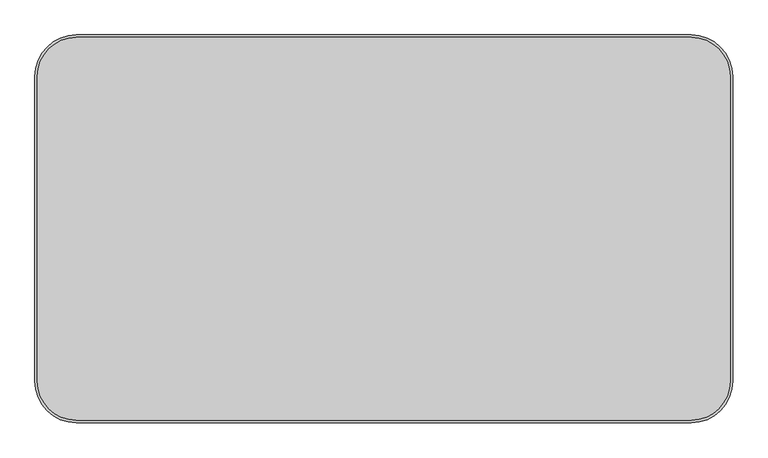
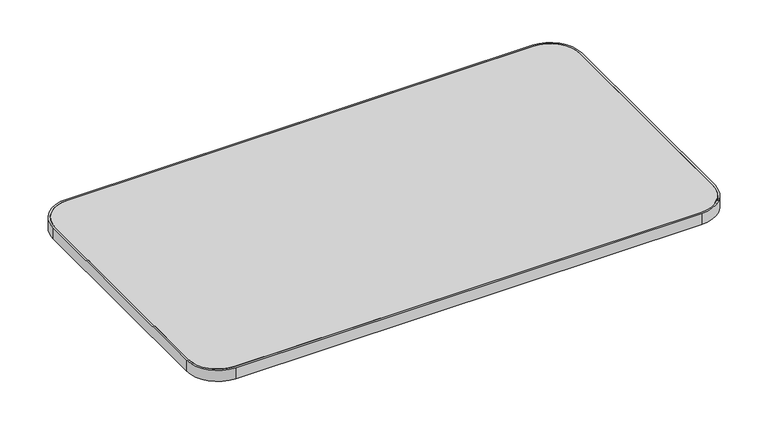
"""IFC4 building model written with IfcOpenShell, lengths in millimetres: furniture geometry, Steelcase - Answer Solution - Universal Table - Straight - 3mm Edge : 30D x 54W."""

from ifc_helpers import new_model, si_unit, point, frame, frame_2d, origin, place, context, project, spatial, polyline, circle_curve, trimmed, segment, composite_curve, outline, extrude, source, transform, mapped, element, save


def furniture_1f974b37(model_context):
    return source(origin(), model_context, "Body", "SweptSolid", [
        extrude(outline(composite_curve([segment(polyline([(5.08, -680.72), (5.08, -81.28)]), True, "CONTINUOUS"), segment(trimmed(circle_curve(frame_2d((81.28, -81.28)), 76.2), [point((5.08, -81.28))], [point((81.28, -5.08))], False, "CARTESIAN"), True, "CONTINUOUS"), segment(polyline([(81.28, -5.08), (1290.32, -5.08)]), True, "CONTINUOUS"), segment(trimmed(circle_curve(frame_2d((1290.32, -81.28)), 76.2), [point((1290.32, -5.08))], [point((1366.52, -81.28))], False, "CARTESIAN"), True, "CONTINUOUS"), segment(polyline([(1366.52, -81.28), (1366.52, -680.72)]), True, "CONTINUOUS"), segment(trimmed(circle_curve(frame_2d((1290.32, -680.72)), 76.2), [point((1366.52, -680.72))], [point((1290.32, -756.92))], False, "CARTESIAN"), True, "CONTINUOUS"), segment(polyline([(1290.32, -756.92), (81.28, -756.92)]), True, "CONTINUOUS"), segment(trimmed(circle_curve(frame_2d((81.28, -680.72)), 76.2), [point((81.28, -756.92))], [point((5.08, -680.72))], False, "CARTESIAN"), True, "CONTINUOUS")], self_intersect=False)), frame((0.0, 0.0, 668.274), z_axis=(0.0, 0.0, 1.0), x_axis=(1.0, 0.0, 0.0)), (0.0, 0.0, 1.0), 30.0990349),
        extrude(outline(composite_curve([segment(polyline([(81.28, 0.0), (1290.32, 0.0)]), True, "CONTINUOUS"), segment(trimmed(circle_curve(frame_2d((1290.32, -81.28)), 81.28), [point((1290.32, 0.0))], [point((1371.6, -81.28))], False, "CARTESIAN"), True, "CONTINUOUS"), segment(polyline([(1371.6, -81.28), (1371.6, -680.72)]), True, "CONTINUOUS"), segment(trimmed(circle_curve(frame_2d((1290.32, -680.72)), 81.28), [point((1371.6, -680.72))], [point((1290.32, -762.0))], False, "CARTESIAN"), True, "CONTINUOUS"), segment(polyline([(1290.32, -762.0), (81.28, -762.0)]), True, "CONTINUOUS"), segment(trimmed(circle_curve(frame_2d((81.28, -680.72)), 81.28), [point((81.28, -762.0))], [point((0.0, -680.72))], False, "CARTESIAN"), True, "CONTINUOUS"), segment(polyline([(0.0, -680.72), (0.0, -81.28)]), True, "CONTINUOUS"), segment(trimmed(circle_curve(frame_2d((81.28, -81.28)), 81.28), [point((0.0, -81.28))], [point((81.28, 0.0))], False, "CARTESIAN"), True, "CONTINUOUS")], self_intersect=False), holes=[composite_curve([segment(trimmed(circle_curve(frame_2d((81.28, -81.28)), 76.2), [point((81.28, -5.08))], [point((5.08, -81.28))], True, "CARTESIAN"), True, "CONTINUOUS"), segment(polyline([(5.08, -81.28), (5.08, -680.72)]), True, "CONTINUOUS"), segment(trimmed(circle_curve(frame_2d((81.28, -680.72)), 76.2), [point((5.08, -680.72))], [point((81.28, -756.92))], True, "CARTESIAN"), True, "CONTINUOUS"), segment(polyline([(81.28, -756.92), (1290.32, -756.92)]), True, "CONTINUOUS"), segment(trimmed(circle_curve(frame_2d((1290.32, -680.72)), 76.2), [point((1290.32, -756.92))], [point((1366.52, -680.72))], True, "CARTESIAN"), True, "CONTINUOUS"), segment(polyline([(1366.52, -680.72), (1366.52, -81.28)]), True, "CONTINUOUS"), segment(trimmed(circle_curve(frame_2d((1290.32, -81.28)), 76.2), [point((1366.52, -81.28))], [point((1290.32, -5.08))], True, "CARTESIAN"), True, "CONTINUOUS"), segment(polyline([(1290.32, -5.08), (81.28, -5.08)]), True, "CONTINUOUS")], self_intersect=False)]), frame((0.0, 0.0, 668.274), z_axis=(0.0, 0.0, 1.0), x_axis=(1.0, 0.0, 0.0)), (0.0, 0.0, 1.0), 30.0990349),
    ])


if __name__ == "__main__":
    model = new_model("IFC4")
    model_context = context("Model", 3, world=origin())
    ifc_project = project(units=[si_unit("LENGTHUNIT", "METRE", prefix="MILLI")], contexts=[model_context])
    site = spatial("IfcSite", under=ifc_project)
    building = spatial("IfcBuilding", under=site)
    placement = place(None, origin())
    furniture_shape = furniture_1f974b37(model_context)
    element("IfcFurniture", 1, ObjectType="Steelcase - Answer Solution - Universal Table - Straight - 3mm Edge : 30D x 54W", at=placement, inside=building, context=model_context, shape_type="MappedRepresentation", body=[
        mapped(furniture_shape, transform((0.0, 0.0, 0.0), x_axis=(1.0, 0.0, 0.0), y_axis=(0.0, 1.0, 0.0), z_axis=(0.0, 0.0, 1.0))),
    ])
    save(model, "model.ifc")
